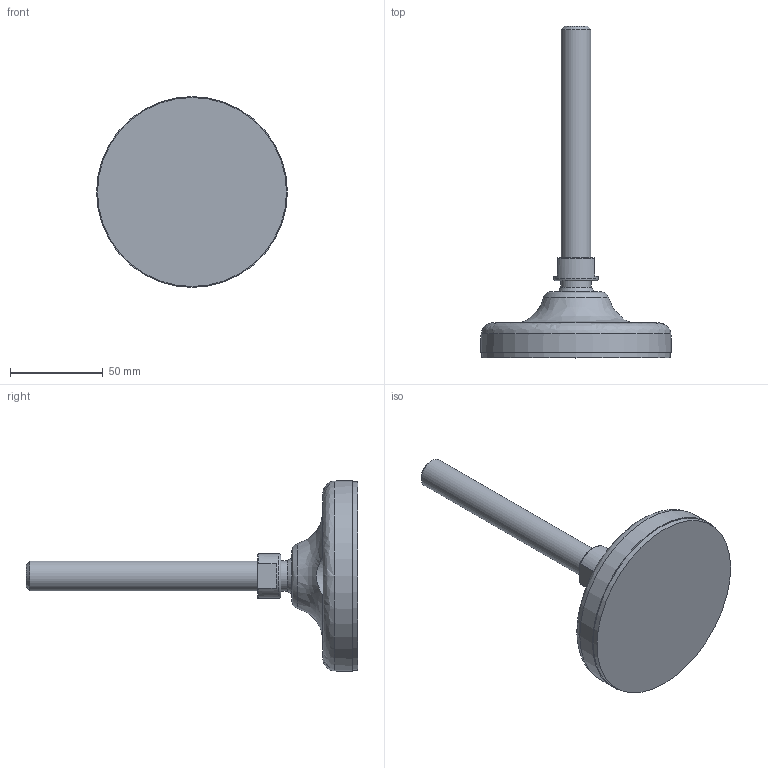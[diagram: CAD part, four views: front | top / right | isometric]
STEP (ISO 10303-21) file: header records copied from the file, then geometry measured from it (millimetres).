
FILE_DESCRIPTION(('STEP AP203'),'2;1');
FILE_NAME('10329.stp','2017-01-09T15:39:11',(''),(''),'2008.1.107','THINKDESIGN','');
FILE_SCHEMA(('CONFIG_CONTROL_DESIGN'));
Length unit declared in the file: millimetre
Bounding box: 103.02 x 179.13 x 103.02 mm (x, y, z)
Volume: 208598.3 mm3; surface area: 47899.2 mm2
Topology: 4 solids, 4 shells, 33 faces, 80 edges, 56 vertices
Faces by surface type: plane 17, bspline 10, cylinder 6
Full cylindrical faces by diameter (mm): 16 x1, 16.642 x1, 24 x1, 102 x1
Entity records: 1803 total; most frequent: CARTESIAN_POINT 929, DIRECTION 170, ORIENTED_EDGE 160, EDGE_CURVE 80, AXIS2_PLACEMENT_3D 78, VERTEX_POINT 56, CIRCLE 55, EDGE_LOOP 34
